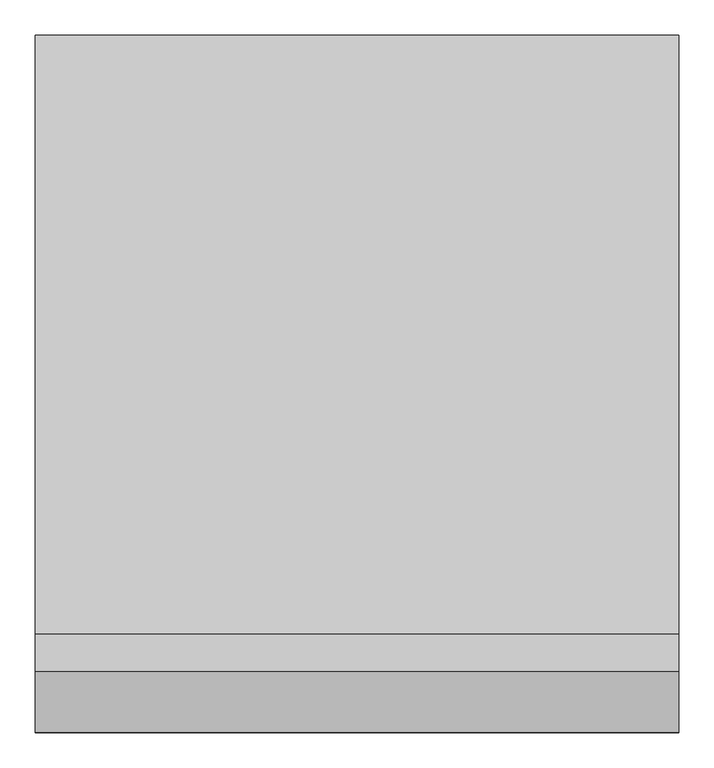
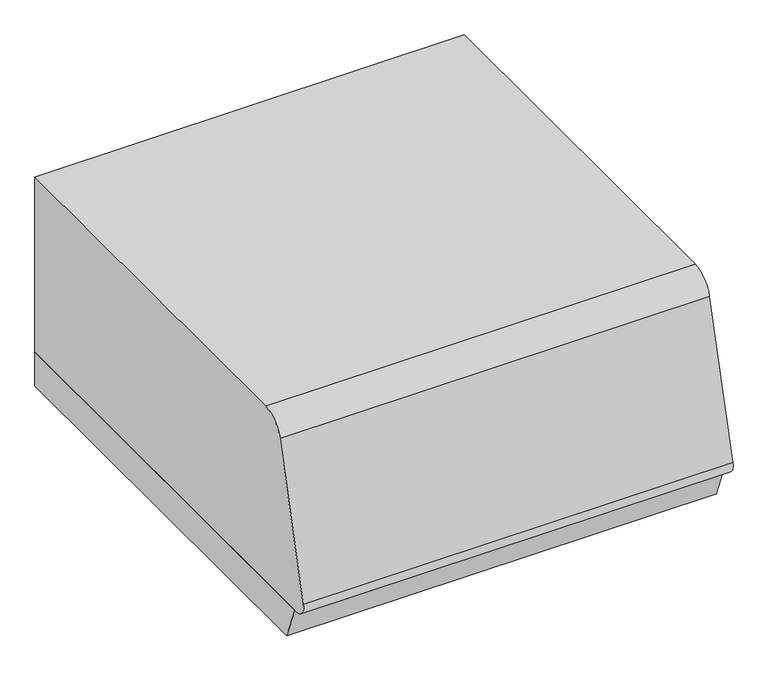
"""IFC4 building model written with IfcOpenShell, lengths in millimetres: furniture geometry, TMOT-CF_Group-Moss_Tier-Otto : TM-OT."""

from ifc_helpers import new_model, si_unit, point, frame, frame_2d, origin, place, context, project, spatial, polyline, circle_curve, trimmed, segment, composite_curve, outline, extrude, source, transform, mapped, element, save


def furniture_2655b0b1(model_context):
    return source(origin(), model_context, "Body", "SweptSolid", [
        extrude(outline(polyline([(493.8707797, 0.0), (-434.54403, 0.0), (-465.366966, 76.1937862), (493.8707797, 76.1937862), (493.8707797, 0.0)])), frame((-457.2, 0.0, 0.0), z_axis=(1.0, 0.0, 0.0), x_axis=(0.0, 1.0, 0.0)), (0.0, 0.0, 1.0), 914.4),
        extrude(outline(composite_curve([segment(trimmed(circle_curve(frame_2d((-357.1669466, 415.4601058)), 55.2040813), [point((-410.4868771, 429.7596026))], [point((-357.165822, 470.6641871))], False, "CARTESIAN"), True, "CONTINUOUS"), segment(polyline([(-357.165822, 470.6641871), (493.8707797, 470.646908), (493.8707797, 76.2), (-472.1961387, 76.2)]), True, "CONTINUOUS"), segment(trimmed(circle_curve(frame_2d((-472.1961387, 101.6)), 25.4), [point((-472.1961387, 76.2))], [point((-496.7292203, 108.1793545))], False, "CARTESIAN"), True, "CONTINUOUS"), segment(polyline([(-496.7292203, 108.1793545), (-410.4868771, 429.7596026)]), True, "CONTINUOUS")], self_intersect=False)), frame((-457.2, 0.0, 0.0), z_axis=(1.0, 0.0, 0.0), x_axis=(0.0, 1.0, 0.0)), (0.0, 0.0, 1.0), 914.4),
    ])


if __name__ == "__main__":
    model = new_model("IFC4")
    model_context = context("Model", 3, world=origin())
    ifc_project = project(units=[si_unit("LENGTHUNIT", "METRE", prefix="MILLI")], contexts=[model_context])
    site = spatial("IfcSite", under=ifc_project)
    building = spatial("IfcBuilding", under=site)
    placement = place(None, origin())
    furniture_shape = furniture_2655b0b1(model_context)
    element("IfcFurniture", 1, ObjectType="TMOT-CF_Group-Moss_Tier-Otto : TM-OT", at=placement, inside=building, context=model_context, shape_type="MappedRepresentation", body=[
        mapped(furniture_shape, transform((0.0, 0.0, 0.0), x_axis=(1.0, 0.0, 0.0), y_axis=(0.0, 1.0, 0.0), z_axis=(0.0, 0.0, 1.0))),
    ])
    save(model, "model.ifc")
